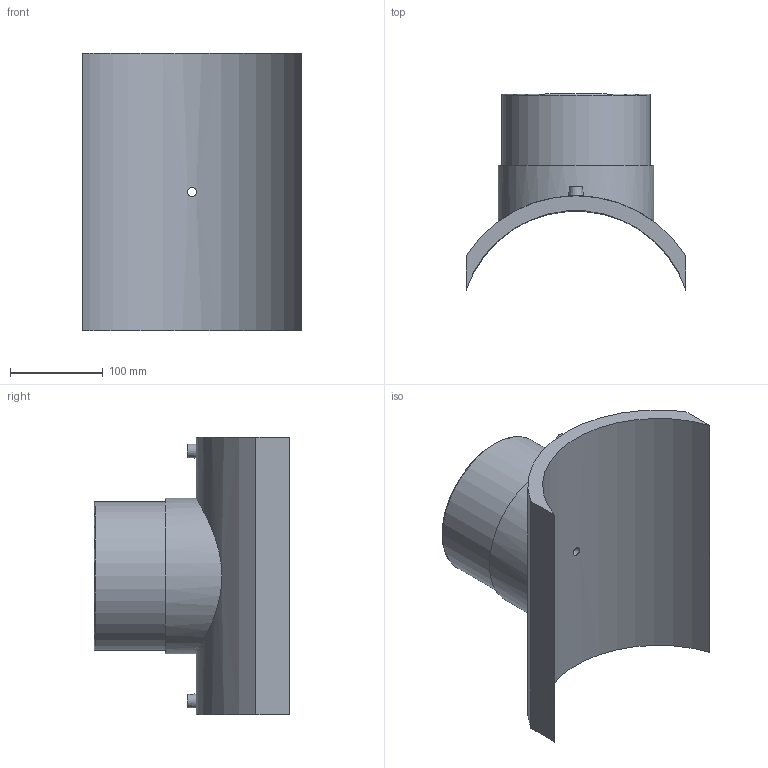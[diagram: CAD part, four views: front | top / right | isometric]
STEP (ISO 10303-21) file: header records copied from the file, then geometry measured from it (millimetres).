
FILE_DESCRIPTION(/* description */ ('PLASSON BRANCH SADDLE 250x160'),/* implementation_level */ '2;1');
FILE_NAME(/* name */ 'C:\Dropbox\KIMPROJECTS-Inventor 2019\99-16-3568-Processing\ElectroFusion Fittings\495803\stp\495803250160T.stp',/* time_stamp */ '2024-04-04T11:48:28+02:00',/* author */ ('KIM'),/* organization */ (''),/* preprocessor_version */ 'ST-DEVELOPER v17.2',/* originating_system */ 'Autodesk Inventor 2019',/* authorisation */ '');
FILE_SCHEMA (('AUTOMOTIVE_DESIGN { 1 0 10303 214 3 1 1 }'));
Length unit declared in the file: millimetre
Products named in the file (1): 495803250160T
Bounding box: 237 x 211.22 x 300 mm (x, y, z)
Volume: 2378969.9 mm3; surface area: 325337.6 mm2
Topology: 1 solids, 1 shells, 29 faces, 60 edges, 43 vertices
Faces by surface type: plane 13, cylinder 12, torus 2, cone 2
Full cylindrical faces by diameter (mm): 4 x2, 9.6 x1, 10 x2, 16 x1, 128 x1, 160 x1, 168 x1
Entity records: 1086 total; most frequent: CARTESIAN_POINT 400, DIRECTION 139, ORIENTED_EDGE 120, EDGE_CURVE 60, AXIS2_PLACEMENT_3D 60, VERTEX_POINT 43, EDGE_LOOP 41, CIRCLE 30
